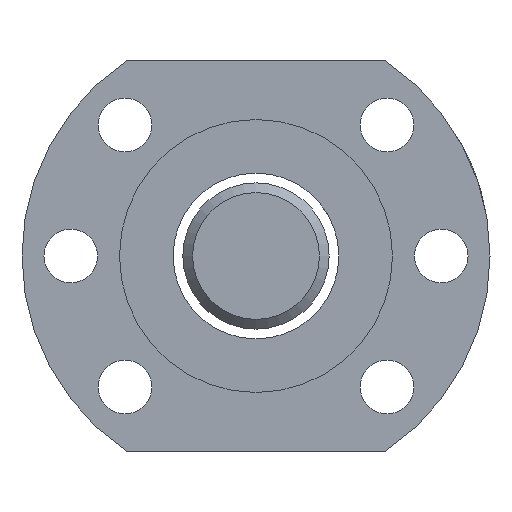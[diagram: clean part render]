
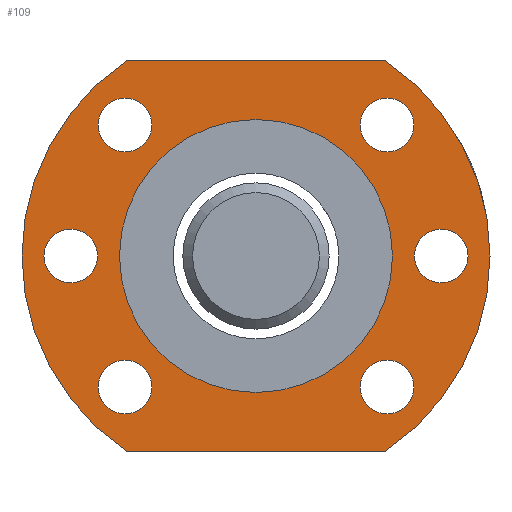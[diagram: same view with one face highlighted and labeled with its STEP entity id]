
A CAD part, left-side view. The second image highlights one B-rep face of the part: STEP entity #109.
In plain terms, the highlighted planar face has unit normal (-1, 0, 0).
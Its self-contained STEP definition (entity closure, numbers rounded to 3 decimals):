
#2 = FACE_BOUND ( 'NONE', #1686, .T. ) ;
#18 = FACE_BOUND ( 'NONE', #3042, .T. ) ;
#53 = EDGE_LOOP ( 'NONE', ( #3213 ) ) ;
#68 = FACE_BOUND ( 'NONE', #1609, .T. ) ;
#84 = DIRECTION ( 'NONE',  ( -1., 0., 0. ) ) ;
#109 = ADVANCED_FACE ( 'NONE', ( #18, #2505, #1818, #249, #1295, #2801, #68, #2 ), #1064, .T. ) ;
#127 = AXIS2_PLACEMENT_3D ( 'NONE', #3079, #882, #1854 ) ;
#155 = CARTESIAN_POINT ( 'NONE',  ( -70.362, -31.269, -11.066 ) ) ;
#197 = VERTEX_POINT ( 'NONE', #2320 ) ;
#249 = FACE_BOUND ( 'NONE', #701, .T. ) ;
#284 = CIRCLE ( 'NONE', #1384, 2.75 ) ;
#288 = DIRECTION ( 'NONE',  ( 0., 0., -1. ) ) ;
#303 = DIRECTION ( 'NONE',  ( -1., 0., 0. ) ) ;
#320 = CARTESIAN_POINT ( 'NONE',  ( -70.362, -63.535, -31.066 ) ) ;
#376 = ORIENTED_EDGE ( 'NONE', *, *, #2792, .T. ) ;
#403 = EDGE_LOOP ( 'NONE', ( #376, #1149, #1102, #2457 ) ) ;
#407 = VERTEX_POINT ( 'NONE', #670 ) ;
#432 = AXIS2_PLACEMENT_3D ( 'NONE', #1564, #2018, #2999 ) ;
#455 = ORIENTED_EDGE ( 'NONE', *, *, #820, .F. ) ;
#479 = EDGE_CURVE ( 'NONE', #2839, #2839, #585, .T. ) ;
#523 = CARTESIAN_POINT ( 'NONE',  ( -70.362, -69.269, -11.066 ) ) ;
#533 = DIRECTION ( 'NONE',  ( 0., 0., -1. ) ) ;
#554 = CARTESIAN_POINT ( 'NONE',  ( -70.362, -63.704, 2.369 ) ) ;
#561 = EDGE_CURVE ( 'NONE', #607, #607, #2205, .T. ) ;
#585 = CIRCLE ( 'NONE', #635, 14. ) ;
#587 = ORIENTED_EDGE ( 'NONE', *, *, #999, .F. ) ;
#607 = VERTEX_POINT ( 'NONE', #1370 ) ;
#635 = AXIS2_PLACEMENT_3D ( 'NONE', #1316, #303, #1823 ) ;
#638 = AXIS2_PLACEMENT_3D ( 'NONE', #554, #1087, #2258 ) ;
#652 = DIRECTION ( 'NONE',  ( -1., 0., 0. ) ) ;
#655 = CARTESIAN_POINT ( 'NONE',  ( -70.362, -63.704, -21.751 ) ) ;
#670 = CARTESIAN_POINT ( 'NONE',  ( -70.362, -69.269, -8.316 ) ) ;
#701 = EDGE_LOOP ( 'NONE', ( #455 ) ) ;
#729 = ORIENTED_EDGE ( 'NONE', *, *, #479, .F. ) ;
#763 = CARTESIAN_POINT ( 'NONE',  ( -70.362, -50.269, -11.066 ) ) ;
#781 = DIRECTION ( 'NONE',  ( 0., 0., 1. ) ) ;
#802 = CIRCLE ( 'NONE', #2003, 2.75 ) ;
#820 = EDGE_CURVE ( 'NONE', #3099, #3099, #1947, .T. ) ;
#836 = LINE ( 'NONE', #2807, #2516 ) ;
#851 = ORIENTED_EDGE ( 'NONE', *, *, #1160, .T. ) ;
#868 = DIRECTION ( 'NONE',  ( 0., 0., 1. ) ) ;
#882 = DIRECTION ( 'NONE',  ( -1., 0., 0. ) ) ;
#896 = LINE ( 'NONE', #1883, #1325 ) ;
#999 = EDGE_CURVE ( 'NONE', #2853, #2853, #1637, .T. ) ;
#1005 = AXIS2_PLACEMENT_3D ( 'NONE', #1302, #2758, #288 ) ;
#1016 = CARTESIAN_POINT ( 'NONE',  ( -70.362, -37.002, -31.066 ) ) ;
#1023 = EDGE_CURVE ( 'NONE', #1493, #197, #896, .T. ) ;
#1064 = PLANE ( 'NONE',  #1219 ) ;
#1087 = DIRECTION ( 'NONE',  ( 1., 0., 0. ) ) ;
#1102 = ORIENTED_EDGE ( 'NONE', *, *, #1606, .T. ) ;
#1105 = CARTESIAN_POINT ( 'NONE',  ( -70.362, -50.269, -25.066 ) ) ;
#1149 = ORIENTED_EDGE ( 'NONE', *, *, #1981, .T. ) ;
#1160 = EDGE_CURVE ( 'NONE', #3159, #3159, #284, .T. ) ;
#1184 = CARTESIAN_POINT ( 'NONE',  ( -70.362, -36.834, -21.751 ) ) ;
#1219 = AXIS2_PLACEMENT_3D ( 'NONE', #763, #2235, #781 ) ;
#1295 = FACE_BOUND ( 'NONE', #53, .T. ) ;
#1302 = CARTESIAN_POINT ( 'NONE',  ( -70.362, -50.269, -11.066 ) ) ;
#1316 = CARTESIAN_POINT ( 'NONE',  ( -70.362, -50.269, -11.066 ) ) ;
#1325 = VECTOR ( 'NONE', #2143, 1000. ) ;
#1351 = ORIENTED_EDGE ( 'NONE', *, *, #2823, .T. ) ;
#1370 = CARTESIAN_POINT ( 'NONE',  ( -70.362, -63.704, 5.119 ) ) ;
#1384 = AXIS2_PLACEMENT_3D ( 'NONE', #2629, #1398, #868 ) ;
#1398 = DIRECTION ( 'NONE',  ( 1., 0., 0. ) ) ;
#1493 = VERTEX_POINT ( 'NONE', #1573 ) ;
#1564 = CARTESIAN_POINT ( 'NONE',  ( -70.362, -36.834, 2.369 ) ) ;
#1573 = CARTESIAN_POINT ( 'NONE',  ( -70.362, -63.535, 8.934 ) ) ;
#1606 = EDGE_CURVE ( 'NONE', #2881, #1493, #2461, .T. ) ;
#1609 = EDGE_LOOP ( 'NONE', ( #851 ) ) ;
#1637 = CIRCLE ( 'NONE', #127, 2.75 ) ;
#1686 = EDGE_LOOP ( 'NONE', ( #2944 ) ) ;
#1741 = CIRCLE ( 'NONE', #432, 2.75 ) ;
#1818 = FACE_OUTER_BOUND ( 'NONE', #403, .T. ) ;
#1823 = DIRECTION ( 'NONE',  ( 0., 0., -1. ) ) ;
#1854 = DIRECTION ( 'NONE',  ( 0., 0., 1. ) ) ;
#1871 = CARTESIAN_POINT ( 'NONE',  ( -70.362, -31.269, -8.316 ) ) ;
#1883 = CARTESIAN_POINT ( 'NONE',  ( -70.362, -63.535, 8.934 ) ) ;
#1914 = VERTEX_POINT ( 'NONE', #2885 ) ;
#1947 = CIRCLE ( 'NONE', #2053, 2.75 ) ;
#1950 = AXIS2_PLACEMENT_3D ( 'NONE', #2786, #84, #533 ) ;
#1981 = EDGE_CURVE ( 'NONE', #2097, #2881, #836, .T. ) ;
#2003 = AXIS2_PLACEMENT_3D ( 'NONE', #523, #2723, #2260 ) ;
#2018 = DIRECTION ( 'NONE',  ( -1., 0., 0. ) ) ;
#2053 = AXIS2_PLACEMENT_3D ( 'NONE', #155, #652, #2129 ) ;
#2097 = VERTEX_POINT ( 'NONE', #1016 ) ;
#2129 = DIRECTION ( 'NONE',  ( 0., 0., 1. ) ) ;
#2143 = DIRECTION ( 'NONE',  ( 0., 1., 0. ) ) ;
#2176 = EDGE_CURVE ( 'NONE', #1914, #1914, #1741, .T. ) ;
#2205 = CIRCLE ( 'NONE', #638, 2.75 ) ;
#2235 = DIRECTION ( 'NONE',  ( -1., 0., 0. ) ) ;
#2258 = DIRECTION ( 'NONE',  ( 0., 0., 1. ) ) ;
#2260 = DIRECTION ( 'NONE',  ( 0., 0., 1. ) ) ;
#2284 = EDGE_LOOP ( 'NONE', ( #729 ) ) ;
#2320 = CARTESIAN_POINT ( 'NONE',  ( -70.362, -37.002, 8.934 ) ) ;
#2415 = EDGE_LOOP ( 'NONE', ( #587 ) ) ;
#2457 = ORIENTED_EDGE ( 'NONE', *, *, #1023, .T. ) ;
#2461 = CIRCLE ( 'NONE', #1950, 24. ) ;
#2505 = FACE_BOUND ( 'NONE', #2284, .T. ) ;
#2516 = VECTOR ( 'NONE', #2565, 1000. ) ;
#2565 = DIRECTION ( 'NONE',  ( 0., -1., 0. ) ) ;
#2629 = CARTESIAN_POINT ( 'NONE',  ( -70.362, -63.704, -24.501 ) ) ;
#2720 = CIRCLE ( 'NONE', #1005, 24. ) ;
#2723 = DIRECTION ( 'NONE',  ( 1., 0., 0. ) ) ;
#2758 = DIRECTION ( 'NONE',  ( -1., 0., 0. ) ) ;
#2786 = CARTESIAN_POINT ( 'NONE',  ( -70.362, -50.269, -11.066 ) ) ;
#2792 = EDGE_CURVE ( 'NONE', #197, #2097, #2720, .T. ) ;
#2801 = FACE_BOUND ( 'NONE', #2415, .T. ) ;
#2807 = CARTESIAN_POINT ( 'NONE',  ( -70.362, -37.002, -31.066 ) ) ;
#2823 = EDGE_CURVE ( 'NONE', #407, #407, #802, .T. ) ;
#2839 = VERTEX_POINT ( 'NONE', #1105 ) ;
#2853 = VERTEX_POINT ( 'NONE', #1184 ) ;
#2881 = VERTEX_POINT ( 'NONE', #320 ) ;
#2885 = CARTESIAN_POINT ( 'NONE',  ( -70.362, -36.834, 5.119 ) ) ;
#2944 = ORIENTED_EDGE ( 'NONE', *, *, #561, .T. ) ;
#2999 = DIRECTION ( 'NONE',  ( 0., 0., 1. ) ) ;
#3042 = EDGE_LOOP ( 'NONE', ( #1351 ) ) ;
#3079 = CARTESIAN_POINT ( 'NONE',  ( -70.362, -36.834, -24.501 ) ) ;
#3099 = VERTEX_POINT ( 'NONE', #1871 ) ;
#3159 = VERTEX_POINT ( 'NONE', #655 ) ;
#3213 = ORIENTED_EDGE ( 'NONE', *, *, #2176, .F. ) ;
